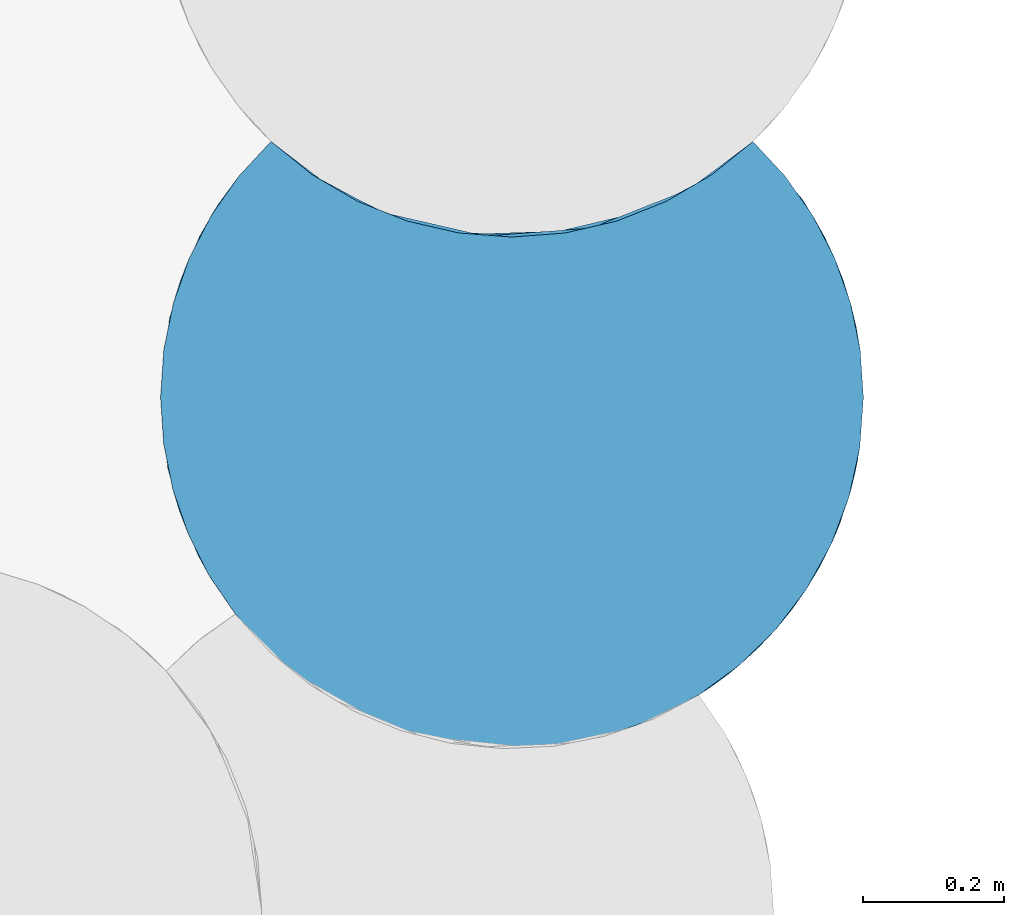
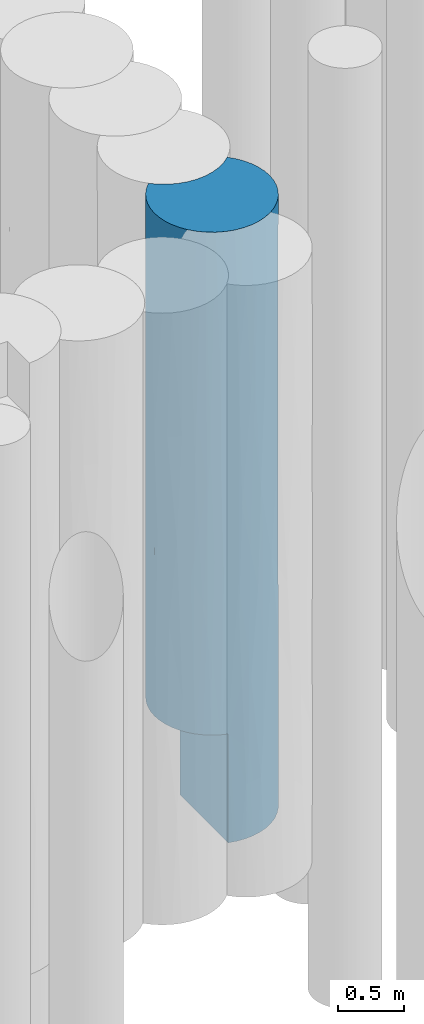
# One storey, part 53 of 104: 1 pile.
"""IFC2X3 building model written with IfcOpenShell, lengths in millimetres."""

from ifc_helpers import new_model, entity, si_unit, converted_unit, derived_unit, direction, frame, origin, place, context, subcontext, project, spatial, faceted_brep, source, transform, mapped, material, element, save


model = new_model("IFC2X3")

# Units and contexts
model_context = context("Model", 3, precision=0.01, world=origin(), true_north=direction((6.12303176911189e-17, 1.0)))
body_context = subcontext(model_context, "Body", "Model", "MODEL_VIEW")
ifc_project = project(units=[si_unit("LENGTHUNIT", "METRE", prefix="MILLI"), si_unit("AREAUNIT", "SQUARE_METRE", prefix="MILLI"), si_unit("VOLUMEUNIT", "CUBIC_METRE"), converted_unit("PLANEANGLEUNIT", "DEGREE", entity("IfcRatioMeasure", 0.0174532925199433), si_unit("PLANEANGLEUNIT", "RADIAN"), dimensions=[0, 0, 0, 0, 0, 0, 0]), si_unit("MASSUNIT", "GRAM", prefix="KILO"), derived_unit("MASSDENSITYUNIT", [(si_unit("MASSUNIT", "GRAM", prefix="KILO"), 1), (si_unit("LENGTHUNIT", "METRE"), -3)]), derived_unit("MOMENTOFINERTIAUNIT", [(si_unit("LENGTHUNIT", "METRE"), 4)]), si_unit("TIMEUNIT", "SECOND"), si_unit("FREQUENCYUNIT", "HERTZ"), si_unit("THERMODYNAMICTEMPERATUREUNIT", "DEGREE_CELSIUS"), derived_unit("THERMALTRANSMITTANCEUNIT", [(si_unit("MASSUNIT", "GRAM", prefix="KILO"), 1), (si_unit("THERMODYNAMICTEMPERATUREUNIT", "KELVIN"), -1), (si_unit("TIMEUNIT", "SECOND"), -3)]), derived_unit("VOLUMETRICFLOWRATEUNIT", [(si_unit("LENGTHUNIT", "METRE"), 3), (si_unit("TIMEUNIT", "SECOND"), -1)]), si_unit("ELECTRICCURRENTUNIT", "AMPERE"), si_unit("ELECTRICVOLTAGEUNIT", "VOLT"), si_unit("POWERUNIT", "WATT"), si_unit("FORCEUNIT", "NEWTON", prefix="KILO"), si_unit("ILLUMINANCEUNIT", "LUX"), si_unit("LUMINOUSFLUXUNIT", "LUMEN"), si_unit("LUMINOUSINTENSITYUNIT", "CANDELA"), derived_unit("USERDEFINED", [(si_unit("MASSUNIT", "GRAM", prefix="KILO"), -1), (si_unit("LENGTHUNIT", "METRE"), -2), (si_unit("TIMEUNIT", "SECOND"), 3), (si_unit("LUMINOUSFLUXUNIT", "LUMEN"), 1)]), derived_unit("LINEARVELOCITYUNIT", [(si_unit("LENGTHUNIT", "METRE"), 1), (si_unit("TIMEUNIT", "SECOND"), -1)]), si_unit("PRESSUREUNIT", "PASCAL"), derived_unit("USERDEFINED", [(si_unit("LENGTHUNIT", "METRE"), -2), (si_unit("MASSUNIT", "GRAM", prefix="KILO"), 1), (si_unit("TIMEUNIT", "SECOND"), -2)]), derived_unit("LINEARFORCEUNIT", [(si_unit("MASSUNIT", "GRAM", prefix="KILO"), 1), (si_unit("LENGTHUNIT", "METRE"), 1), (si_unit("TIMEUNIT", "SECOND"), -2), (si_unit("LENGTHUNIT", "METRE"), -1)]), derived_unit("PLANARFORCEUNIT", [(si_unit("MASSUNIT", "GRAM", prefix="KILO"), 1), (si_unit("LENGTHUNIT", "METRE"), 1), (si_unit("TIMEUNIT", "SECOND"), -2), (si_unit("LENGTHUNIT", "METRE"), -2)])], contexts=[model_context])

# Site, building, storey
site_placement = place(None, origin())
site = spatial("IfcSite", under=ifc_project, at=site_placement, Name="Theater aan de Parade", CompositionType="ELEMENT")
building_placement = place(site_placement, origin())
building = spatial("IfcBuilding", under=site, at=building_placement, Name="Theater aan de Parade", CompositionType="ELEMENT")
storey_placement = place(building_placement, frame((0.0, 0.0, -5520.0)))
storey = spatial("IfcBuildingStorey", under=building, at=storey_placement, Name="-2 kelder", CompositionType="ELEMENT", Elevation=-5520.0)

# Pile
ifc_material = material(Name="00_PBT_MAT_grout")
shared_shape = source(origin(), body_context, "Body", "Brep", [
    faceted_brep([(890.546518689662, 815.786919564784, 0.0), (929.522999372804, 760.20195941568, 0.0), (960.609902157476, 699.850741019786, 0.0), (983.235934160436, 635.841476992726, 0.0), (996.98227680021, 569.356617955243, 0.0), (1001.59527223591, 501.59441825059, 0.0), (996.389718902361, 429.632931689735, 0.0), (980.883463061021, 359.176616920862, 0.0), (955.399804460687, 291.686232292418, 0.0), (920.470442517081, 228.567694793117, 0.0), (876.823122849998, 171.134042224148, 0.0), (825.366716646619, 120.57991487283, 0.0), (767.164909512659, 77.9596704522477, 0.0), (705.675239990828, 45.1391994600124, 0.0), (640.211475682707, 21.1929734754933, 0.0), (572.051818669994, 6.58343345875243, 0.0), (502.519385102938, 1.59527223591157, 0.0), (432.967780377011, 6.32654390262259, 0.0), (364.737142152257, 20.6891757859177, 0.0), (364.737142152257, 748.689175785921, 0.0), (436.909351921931, 733.796342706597, 0.0), (510.487049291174, 729.673488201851, 0.0), (583.871954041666, 736.410327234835, 0.0), (655.469938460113, 753.860682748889, 0.0), (723.725648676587, 781.645653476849, 0.0), (787.156098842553, 819.16170231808, 0.0), (844.383836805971, 865.594418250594, 0.0), (946.091901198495, 730.554560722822, 1043.52260300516), (844.383836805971, 865.594418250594, 1561.53736017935), (991.802660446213, 600.066325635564, 2700.88189763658), (1001.59527223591, 501.59441825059, 1561.53772532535), (973.010577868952, 668.230577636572, 1936.06593957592), (985.215355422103, 628.525955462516, 1004.42467996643), (1001.59527223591, 501.59441825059, 4058.46227467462), (1001.59527223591, 501.59441825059, 3123.0754506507), (973.010577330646, 668.230579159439, 3903.08947333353), (929.522999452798, 760.201959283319, 5620.0), (960.609902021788, 699.850741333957, 5620.0), (946.091900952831, 730.554561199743, 4676.4192162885), (913.551239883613, 784.953343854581, 2342.30656510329), (844.383836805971, 865.594418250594, 3123.07532463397), (918.831384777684, 777.119419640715, 3590.76885473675), (991.238840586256, 602.832632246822, 4676.41593122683), (844.383836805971, 865.594418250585, 2342.306559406), (890.546518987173, 815.786919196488, 5620.0), (1001.59527223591, 501.59441825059, 5620.0), (844.383836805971, 865.594418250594, 4058.46203554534), (844.383836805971, 865.594418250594, 5620.0), (959.857267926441, 701.584276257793, 2919.57770266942), (983.235934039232, 635.841477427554, 5620.0), (996.982276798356, 569.356617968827, 5620.0), (1.5952722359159, 501.59441825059, 2561.53770843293), (1.5952722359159, 501.59441825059, 1000.0), (6.00677548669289, 435.321936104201, 1000.0), (993.770174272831, 413.481616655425, 3590.76885291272), (993.789469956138, 413.589465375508, 2650.50246727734), (797.048299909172, 98.2242304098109, 3999.95839412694), (810.202271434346, 108.196756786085, 4812.88085420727), (735.443196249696, 59.6496836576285, 4707.06654998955), (149.807225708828, 146.284454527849, 1000.0), (197.15792563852, 104.961209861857, 1000.0), (222.688010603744, 86.6116000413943, 2132.86400398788), (305.470553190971, 41.664973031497, 1000.0), (334.773839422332, 30.2446441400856, 2423.04046116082), (673.361164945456, 32.023893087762, 1298.29653316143), (673.36116501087, 32.023893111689, 2808.24494153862), (537.372640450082, 2.87608098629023, 1678.49458307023), (537.372640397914, 2.87608098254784, 808.641547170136), (222.688010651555, 86.6116000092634, 3301.99540619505), (310.095625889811, 39.7201004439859, 4305.69567252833), (212.814468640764, 93.4208675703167, 4564.66461111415), (72.4552953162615, 245.003537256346, 1974.9140178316), (28.9507945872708, 338.477289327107, 2200.40876299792), (40.8269480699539, 307.448721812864, 1000.0), (128.170215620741, 169.098212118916, 2422.99713055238), (878.124006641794, 172.617044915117, 1919.2062075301), (797.04109423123, 98.2189526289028, 1682.31954081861), (852.007791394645, 144.927814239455, 939.250496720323), (364.737142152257, 20.6891757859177, 1000.0), (108.009918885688, 193.226829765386, 1000.0), (451.789593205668, 4.08120803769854, 4572.75949151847), (415.481997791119, 9.06573485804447, 5620.0), (344.444029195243, 26.9329738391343, 5620.0), (633.404197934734, 19.2808199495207, 5620.0), (561.528631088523, 5.19942180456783, 5620.0), (597.724598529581, 10.922274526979, 4150.12133842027), (249.320887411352, 69.9028214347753, 1000.0), (157.272738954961, 139.04512080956, 5620.0), (131.648077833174, 165.232896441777, 4220.65489754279), (108.009918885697, 193.226829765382, 5620.0), (780.183997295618, 86.397691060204, 845.765488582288), (989.908848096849, 394.124182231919, 4708.08640247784), (963.057089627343, 309.102883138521, 4811.8007591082), (969.361071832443, 324.97291127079, 3999.93906733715), (447.653534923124, 4.51264532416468, 2356.4016391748), (552.698582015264, 4.2128225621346, 2810.42706177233), (70.6199020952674, 248.09840184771, 1000.0), (19.1614893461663, 370.226061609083, 1000.0), (1.5952722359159, 501.59441825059, 5620.0), (1.5952722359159, 501.59441825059, 4123.07541686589), (6.00876088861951, 435.307090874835, 5620.0), (28.9497223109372, 338.480396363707, 4389.2976013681), (11.7774611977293, 401.202625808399, 3337.2517134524), (54.7369958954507, 277.278389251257, 3278.045676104), (70.8152910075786, 247.766508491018, 4171.21564813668), (40.8235415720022, 307.456806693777, 5620.0), (19.1620672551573, 370.223939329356, 5620.0), (70.6101607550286, 248.114964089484, 5620.0), (276.776206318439, 54.9890134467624, 5620.0), (313.970344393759, 38.1325682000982, 3353.65967163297), (451.789593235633, 4.08120803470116, 3472.68577399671), (939.074932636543, 259.496201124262, 1561.22641142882), (213.936256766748, 92.6295165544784, 5620.0), (785.702297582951, 90.154023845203, 2841.14349658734), (899.688775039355, 199.069108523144, 3012.92510204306), (996.389472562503, 429.631237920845, 5620.0), (980.88362255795, 359.177153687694, 5620.0), (955.401088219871, 291.689007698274, 5620.0), (985.713006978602, 376.574344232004, 1542.6983159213), (488.364761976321, 1.76949530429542, 5620.0), (767.180625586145, 77.9620067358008, 5620.0), (702.44990473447, 43.7107904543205, 5620.0), (876.829584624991, 171.141379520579, 5620.0), (825.376503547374, 120.588231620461, 5620.0), (965.790975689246, 315.792510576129, 2736.3038785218), (899.688775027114, 199.06910850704, 4337.56277212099), (920.473897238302, 228.572995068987, 5620.0), (109.78856088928, 190.970045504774, 3329.43916513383), (706.078719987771, 45.3198083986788, 3753.65964753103), (785.695330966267, 818.149213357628, 5620.0), (720.53458465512, 780.07736909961, 5620.0), (650.386060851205, 752.246221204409, 5620.0), (576.847851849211, 735.289806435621, 5620.0), (501.595272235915, 729.59441825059, 5620.0), (426.342692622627, 735.289806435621, 5620.0), (352.804483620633, 752.246221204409, 5620.0), (282.655959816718, 780.077369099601, 5620.0), (217.495213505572, 818.149213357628, 5620.0), (158.806707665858, 865.594418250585, 5620.0), (112.651085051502, 815.795658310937, 5620.0), (73.6726367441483, 760.210384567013, 5620.0), (42.5833372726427, 699.856980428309, 5620.0), (19.9555086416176, 635.844699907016, 5620.0), (6.20818208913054, 569.355992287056, 5620.0), (326.888569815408, 761.110087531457, 2273.76175162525), (364.737142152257, 748.689175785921, 1000.0), (290.148891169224, 776.504550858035, 1000.0), (663.924183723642, 756.678649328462, 934.401469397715), (547.303786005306, 731.688069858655, 1387.23923752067), (781.045655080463, 814.977144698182, 2773.42718946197), (240.363287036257, 803.263736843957, 4116.62238301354), (317.204383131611, 764.836416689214, 4637.58130561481), (317.204383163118, 764.836416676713, 3595.66346068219), (613.937329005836, 742.378591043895, 4689.57401699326), (753.834283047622, 797.882151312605, 4689.57401709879), (234.872589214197, 806.677156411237, 2140.44524759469), (230.480195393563, 809.479416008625, 3093.76199973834), (463.861374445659, 731.020298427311, 4259.36317355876), (417.410361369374, 736.732469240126, 2996.0295336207), (438.083118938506, 733.644615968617, 1887.4342048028), (220.920469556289, 815.805033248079, 1000.0), (158.806707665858, 865.594418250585, 1000.0), (756.132996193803, 799.233468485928, 1012.04504520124), (685.986161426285, 764.836416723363, 3979.39545034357), (592.819728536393, 737.986750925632, 3801.56044529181), (158.806707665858, 865.594418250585, 4058.46229263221), (462.725547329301, 731.107563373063, 891.33523771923), (690.110388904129, 766.493942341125, 1836.49016507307), (692.005096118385, 767.269749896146, 2908.69057816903), (775.575679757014, 811.342417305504, 1951.9221326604), (771.745207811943, 808.858144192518, 3590.76885307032), (158.806707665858, 865.594418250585, 4123.07645993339), (598.023678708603, 738.980963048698, 2235.5855825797), (539.329170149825, 731.020298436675, 3038.71020903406), (158.806707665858, 865.594418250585, 2496.92458526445), (158.80670766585, 865.594418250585, 2561.53628203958), (57.0976620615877, 730.552655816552, 2936.01182480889), (77.6278143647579, 766.644592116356, 2004.37665318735), (30.1816560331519, 668.23535697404, 4223.57134425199), (14.2722960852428, 613.470764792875, 3074.8464224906), (30.1762796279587, 668.220146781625, 2043.51622702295), (42.5776896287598, 699.843904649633, 1000.0), (19.9506701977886, 635.827340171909, 1000.0), (73.6691815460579, 760.204667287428, 1000.0), (83.5815302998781, 775.938201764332, 4493.22792042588), (6.20537477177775, 569.335465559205, 1000.0), (112.651806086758, 815.796550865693, 1000.0)], [[[0, 1, 2, 3, 4, 5, 6, 7, 8, 9, 10, 11, 12, 13, 14, 15, 16, 17, 18, 19, 20, 21, 22, 23, 24, 25, 26]], [[27, 0, 28]], [[27, 2, 1]], [[29, 30, 31]], [[27, 32, 2]], [[33, 34, 35]], [[3, 2, 32]], [[36, 37, 38]], [[39, 40, 41]], [[38, 42, 35]], [[39, 28, 43, 40]], [[44, 36, 38]], [[45, 33, 42]], [[46, 47, 44]], [[0, 26, 28]], [[31, 48, 29]], [[5, 4, 30]], [[37, 49, 38]], [[4, 3, 32]], [[49, 50, 42]], [[39, 27, 28]], [[42, 38, 49]], [[46, 41, 40]], [[41, 38, 35]], [[27, 31, 32]], [[44, 38, 46]], [[0, 27, 1]], [[45, 42, 50]], [[33, 35, 42]], [[38, 41, 46]], [[48, 41, 35]], [[48, 39, 41]], [[27, 39, 31]], [[31, 30, 32]], [[4, 32, 30]], [[29, 35, 34]], [[39, 48, 31]], [[35, 29, 48]], [[30, 29, 34]], [[51, 52, 53]], [[54, 55, 34]], [[56, 57, 58]], [[59, 60, 61]], [[62, 63, 61]], [[64, 65, 66, 67]], [[68, 69, 70]], [[71, 72, 73]], [[74, 59, 61]], [[75, 76, 77]], [[78, 18, 17]], [[74, 79, 59]], [[80, 81, 82]], [[83, 84, 85]], [[61, 60, 86]], [[70, 87, 88]], [[77, 11, 10]], [[63, 62, 78]], [[87, 89, 88]], [[90, 12, 11]], [[91, 92, 93]], [[94, 66, 95]], [[73, 96, 71]], [[9, 77, 10]], [[53, 97, 72]], [[80, 82, 69]], [[98, 99, 100]], [[101, 100, 99]], [[102, 103, 101]], [[97, 73, 72]], [[101, 103, 104]], [[61, 63, 68]], [[105, 106, 101]], [[104, 105, 101]], [[67, 78, 17]], [[95, 66, 65]], [[104, 107, 105]], [[108, 70, 69]], [[109, 110, 69]], [[9, 8, 111]], [[108, 112, 70]], [[6, 5, 30]], [[108, 69, 82]], [[113, 114, 56]], [[17, 16, 67]], [[85, 80, 110]], [[90, 13, 12]], [[102, 99, 51]], [[77, 90, 11]], [[16, 15, 67]], [[45, 115, 91]], [[92, 116, 117]], [[64, 14, 13]], [[111, 77, 9]], [[65, 64, 76]], [[30, 118, 6]], [[109, 69, 68]], [[74, 61, 68]], [[91, 115, 116]], [[90, 77, 76]], [[53, 72, 51]], [[102, 72, 103]], [[55, 118, 30]], [[71, 79, 74]], [[69, 110, 80]], [[100, 101, 106]], [[33, 54, 34]], [[119, 81, 80]], [[80, 85, 84]], [[58, 120, 121]], [[103, 72, 71]], [[84, 119, 80]], [[58, 83, 85]], [[122, 123, 57]], [[93, 124, 54]], [[56, 114, 125]], [[76, 113, 65]], [[58, 57, 120]], [[94, 78, 66]], [[95, 85, 110]], [[55, 54, 124]], [[122, 57, 125]], [[126, 122, 125]], [[127, 103, 71]], [[104, 89, 107]], [[93, 92, 125]], [[58, 128, 56]], [[126, 125, 92]], [[118, 8, 7]], [[61, 86, 62]], [[67, 14, 64]], [[93, 125, 114]], [[127, 68, 88]], [[75, 77, 111]], [[54, 91, 93]], [[45, 91, 33]], [[83, 58, 121]], [[128, 85, 65]], [[67, 15, 14]], [[78, 67, 66]], [[111, 114, 75]], [[113, 75, 114]], [[85, 128, 58]], [[113, 128, 65]], [[91, 54, 33]], [[93, 114, 124]], [[114, 111, 124]], [[118, 55, 124]], [[118, 124, 111]], [[30, 34, 55]], [[99, 102, 101]], [[72, 102, 51]], [[76, 64, 90]], [[13, 90, 64]], [[8, 118, 111]], [[6, 118, 7]], [[116, 92, 91]], [[92, 117, 126]], [[125, 57, 56]], [[120, 57, 123]], [[85, 95, 65]], [[94, 110, 63]], [[110, 94, 95]], [[78, 94, 63]], [[113, 76, 75]], [[128, 113, 56]], [[68, 127, 74]], [[104, 127, 88]], [[87, 70, 112]], [[68, 70, 88]], [[68, 63, 109]], [[110, 109, 63]], [[79, 71, 96]], [[71, 74, 127]], [[127, 104, 103]], [[104, 88, 89]], [[129, 130, 131, 132, 133, 134, 135, 136, 137, 138, 139, 140, 141, 142, 143, 98, 100, 106, 105, 107, 89, 87, 112, 108, 82, 81, 119, 84, 83, 121, 120, 123, 122, 126, 117, 116, 115, 45, 50, 49, 37, 36, 44, 47]], [[144, 145, 146]], [[147, 24, 23]], [[20, 19, 145]], [[22, 21, 148]], [[43, 149, 40]], [[150, 151, 152]], [[153, 131, 130, 154]], [[151, 136, 135]], [[155, 156, 144]], [[152, 151, 157]], [[146, 155, 144]], [[158, 159, 144]], [[155, 160, 161]], [[157, 151, 134]], [[26, 162, 28]], [[163, 164, 153]], [[24, 162, 25]], [[165, 137, 150]], [[166, 148, 21]], [[137, 136, 151]], [[145, 166, 20]], [[156, 152, 144]], [[154, 129, 47]], [[147, 162, 24]], [[130, 129, 154]], [[145, 144, 159]], [[167, 162, 147]], [[168, 149, 169]], [[40, 170, 46]], [[137, 165, 171, 138]], [[133, 157, 134]], [[145, 159, 166]], [[168, 172, 173]], [[153, 157, 133]], [[163, 153, 154]], [[152, 157, 158]], [[156, 150, 152]], [[131, 153, 132]], [[135, 134, 151]], [[148, 172, 167]], [[22, 147, 23]], [[25, 162, 26]], [[169, 167, 168]], [[132, 153, 133]], [[173, 157, 164]], [[163, 154, 170]], [[46, 154, 47]], [[46, 170, 154]], [[163, 170, 168]], [[164, 163, 168]], [[43, 28, 169]], [[28, 162, 169]], [[170, 40, 149]], [[167, 169, 162]], [[153, 164, 157]], [[173, 164, 168]], [[151, 150, 137]], [[156, 174, 175, 165]], [[150, 156, 165]], [[155, 174, 156]], [[174, 155, 161]], [[160, 155, 146]], [[147, 148, 167]], [[148, 147, 22]], [[148, 159, 172]], [[173, 159, 158]], [[173, 158, 157]], [[158, 144, 152]], [[170, 149, 168]], [[169, 149, 43]], [[167, 172, 168]], [[173, 172, 159]], [[20, 166, 21]], [[148, 166, 159]], [[176, 171, 165, 175]], [[176, 175, 177]], [[178, 176, 179]], [[180, 177, 181]], [[180, 181, 182]], [[183, 181, 177]], [[179, 99, 178]], [[99, 98, 143]], [[139, 171, 184]], [[138, 171, 139]], [[180, 185, 51]], [[186, 177, 175]], [[179, 176, 180]], [[186, 175, 174, 161]], [[185, 180, 182]], [[143, 142, 178]], [[177, 186, 183]], [[178, 184, 176]], [[185, 52, 51]], [[141, 184, 178]], [[140, 184, 141]], [[180, 176, 177]], [[143, 178, 99]], [[179, 180, 51]], [[99, 179, 51]], [[178, 142, 141]], [[139, 184, 140]], [[176, 184, 171]], [[181, 183, 186, 161, 160, 146, 145, 78, 62, 86, 60, 59, 79, 96, 73, 97, 53, 52, 185, 182]], [[145, 19, 18, 78]]]),
])
pile_placement = place(storey_placement, frame((41760.2628578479, 38711.218846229, -3840.0)))
element("IfcPile", 1, at=pile_placement, inside=storey, material=ifc_material, Name="17_PBT_SFO_grondkering_rond:Ø1000 (grondkering)", ObjectType="17_PBT_SFO_grondkering_rond:Ø1000 (grondkering)", PredefinedType="NOTDEFINED", context=body_context, shape_type="MappedRepresentation", body=[
    mapped(shared_shape, transform((0.0, 0.0, 0.0), scale=1.0)),
])

save(model, "model.ifc")
